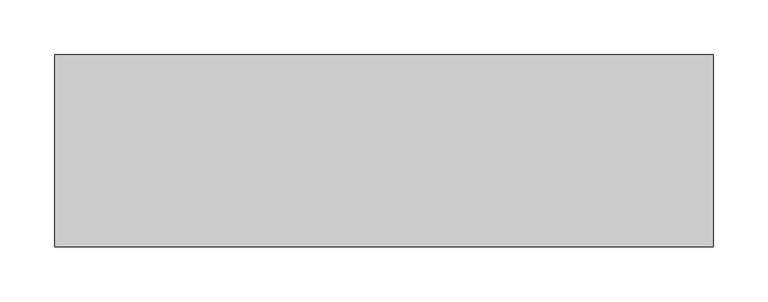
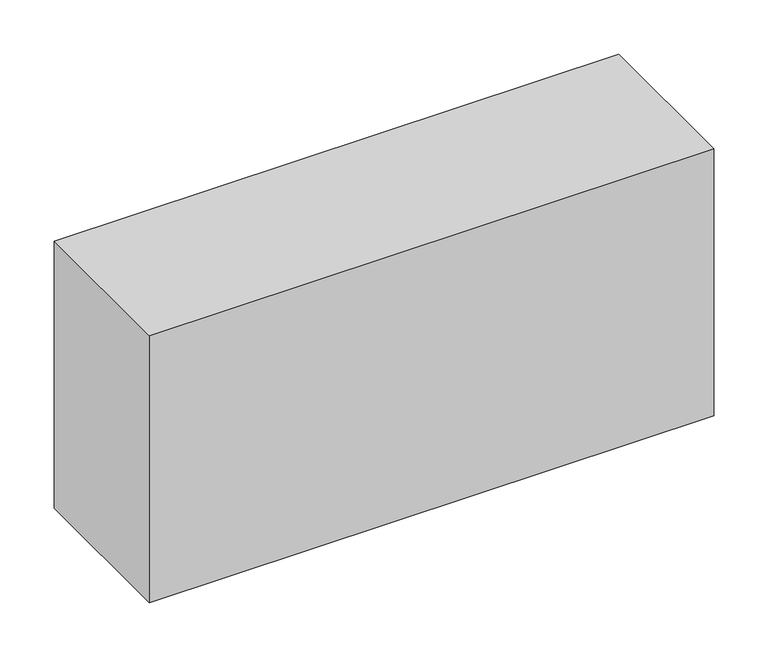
"""IFC4 building model written with IfcOpenShell, lengths in millimetres: proxy geometry, Módulo de Vedação de Concreto Celular - Celucon : MVCC 17,5x30x60cm (L x A x C)."""

from ifc_helpers import new_model, si_unit, origin, origin_with_axes, place, context, project, spatial, polyline, outline, extrude, source, transform, mapped, element, save


def generic_models_39737419(model_context):
    return source(origin(), model_context, "Body", "SweptSolid", [
        extrude(outline(polyline([(300.0, 87.5), (300.0, -87.5), (-300.0, -87.5), (-300.0, 87.5), (300.0, 87.5)])), origin_with_axes(), (0.0, 0.0, 1.0), 300.0),
    ])


if __name__ == "__main__":
    model = new_model("IFC4")
    model_context = context("Model", 3, world=origin())
    ifc_project = project(units=[si_unit("LENGTHUNIT", "METRE", prefix="MILLI")], contexts=[model_context])
    site = spatial("IfcSite", under=ifc_project)
    building = spatial("IfcBuilding", under=site)
    placement = place(None, origin())
    generic_models_shape = generic_models_39737419(model_context)
    element("IfcBuildingElementProxy", 1, Name="Módulo de Vedação de Concreto Celular - Celucon : MVCC 17,5x30x60cm (L x A x C)", ObjectType="Módulo de Vedação de Concreto Celular - Celucon : MVCC 17,5x30x60cm (L x A x C)", at=placement, inside=building, context=model_context, shape_type="MappedRepresentation", body=[
        mapped(generic_models_shape, transform((0.0, 0.0, 0.0), x_axis=(1.0, 0.0, 0.0), y_axis=(0.0, 1.0, 0.0), z_axis=(0.0, 0.0, 1.0))),
    ])
    save(model, "model.ifc")
